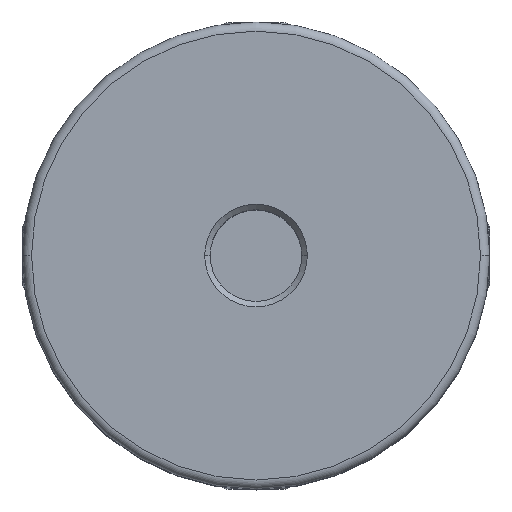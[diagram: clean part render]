
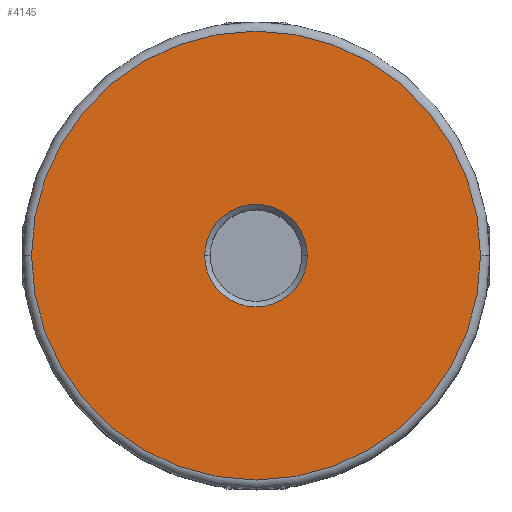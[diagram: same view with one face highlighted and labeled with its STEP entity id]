
A CAD part, top view. The second image highlights one B-rep face of the part: STEP entity #4145.
In plain terms, the highlighted planar face has unit normal (0, 0, 1).
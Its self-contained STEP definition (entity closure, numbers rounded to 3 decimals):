
#200 = CARTESIAN_POINT ( 'NONE',  ( -2.8, 0., 12.7 ) ) ;
#242 = CARTESIAN_POINT ( 'NONE',  ( 2.8, 0., 12.7 ) ) ;
#453 = CARTESIAN_POINT ( 'NONE',  ( -12.25, 0., 12.7 ) ) ;
#454 = CARTESIAN_POINT ( 'NONE',  ( 12.25, 0., 12.7 ) ) ;
#771 = AXIS2_PLACEMENT_3D ( 'NONE', #2490, #2494, #2495 ) ;
#950 = AXIS2_PLACEMENT_3D ( 'NONE', #2771, #2772, #2773 ) ;
#1205 = FACE_BOUND ( 'NONE', #5759, .T. ) ;
#1238 = AXIS2_PLACEMENT_3D ( 'NONE', #3417, #3418, #3419 ) ;
#1252 = FACE_OUTER_BOUND ( 'NONE', #5716, .T. ) ;
#1344 = AXIS2_PLACEMENT_3D ( 'NONE', #3389, #3390, #3391 ) ;
#1983 = CARTESIAN_POINT ( 'NONE',  ( 0., 0., 12.7 ) ) ;
#1987 = DIRECTION ( 'NONE',  ( 0., 0., 1. ) ) ;
#1988 = DIRECTION ( 'NONE',  ( -1., 0., 0. ) ) ;
#2490 = CARTESIAN_POINT ( 'NONE',  ( 0., 0., 12.7 ) ) ;
#2494 = DIRECTION ( 'NONE',  ( 0., 0., -1. ) ) ;
#2495 = DIRECTION ( 'NONE',  ( 0., 1., 0. ) ) ;
#2562 = AXIS2_PLACEMENT_3D ( 'NONE', #1983, #1987, #1988 ) ;
#2771 = CARTESIAN_POINT ( 'NONE',  ( 0., 0., 12.7 ) ) ;
#2772 = DIRECTION ( 'NONE',  ( 0., 0., 1. ) ) ;
#2773 = DIRECTION ( 'NONE',  ( -1., 0., 0. ) ) ;
#3388 = PLANE ( 'NONE',  #1344 ) ;
#3389 = CARTESIAN_POINT ( 'NONE',  ( 0., 0., 12.7 ) ) ;
#3390 = DIRECTION ( 'NONE',  ( 0., 0., -1. ) ) ;
#3391 = DIRECTION ( 'NONE',  ( -1., 0., 0. ) ) ;
#3417 = CARTESIAN_POINT ( 'NONE',  ( 0., 0., 12.7 ) ) ;
#3418 = DIRECTION ( 'NONE',  ( 0., 0., -1. ) ) ;
#3419 = DIRECTION ( 'NONE',  ( 0., 1., 0. ) ) ;
#3834 = CIRCLE ( 'NONE', #771, 2.8 ) ;
#3867 = CIRCLE ( 'NONE', #2562, 12.25 ) ;
#3980 = EDGE_CURVE ( 'NONE', #6097, #6096, #4205, .T. ) ;
#4145 = ADVANCED_FACE ( 'NONE', ( #1205, #1252 ), #3388, .F. ) ;
#4153 = EDGE_CURVE ( 'NONE', #5885, #5843, #4230, .T. ) ;
#4205 = CIRCLE ( 'NONE', #950, 12.25 ) ;
#4230 = CIRCLE ( 'NONE', #1238, 2.8 ) ;
#4466 = EDGE_CURVE ( 'NONE', #6096, #6097, #3867, .T. ) ;
#4586 = EDGE_CURVE ( 'NONE', #5843, #5885, #3834, .T. ) ;
#5075 = ORIENTED_EDGE ( 'NONE', *, *, #3980, .T. ) ;
#5077 = ORIENTED_EDGE ( 'NONE', *, *, #4466, .T. ) ;
#5078 = ORIENTED_EDGE ( 'NONE', *, *, #4586, .T. ) ;
#5079 = ORIENTED_EDGE ( 'NONE', *, *, #4153, .T. ) ;
#5716 = EDGE_LOOP ( 'NONE', ( #5077, #5075 ) ) ;
#5759 = EDGE_LOOP ( 'NONE', ( #5079, #5078 ) ) ;
#5843 = VERTEX_POINT ( 'NONE', #200 ) ;
#5885 = VERTEX_POINT ( 'NONE', #242 ) ;
#6096 = VERTEX_POINT ( 'NONE', #453 ) ;
#6097 = VERTEX_POINT ( 'NONE', #454 ) ;
